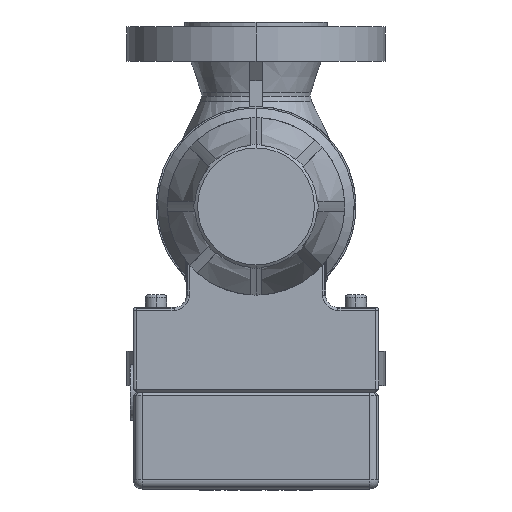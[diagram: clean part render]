
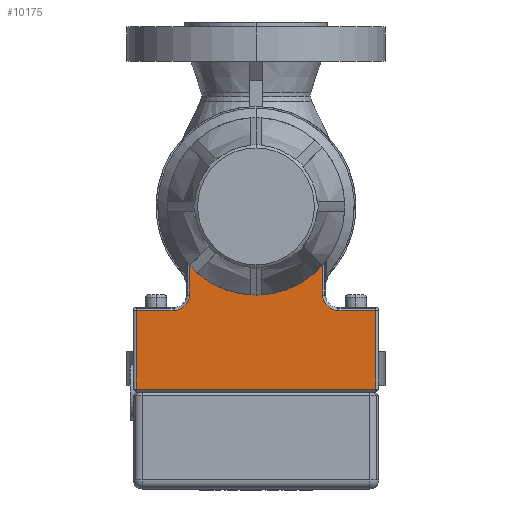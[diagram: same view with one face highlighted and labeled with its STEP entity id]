
A CAD part, front view. The second image highlights one B-rep face of the part: STEP entity #10175.
In plain terms, the highlighted free-form (B-spline) face has degree [1, 1] with [2, 2] control points.
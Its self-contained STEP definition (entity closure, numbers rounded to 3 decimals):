
#7670=CARTESIAN_POINT('',(48.75,-260.717,0.688));
#7671=VERTEX_POINT('',#7670);
#7701=CARTESIAN_POINT('',(48.75,-260.717,32.658));
#7702=VERTEX_POINT('',#7701);
#7710=CARTESIAN_POINT('',(48.75,-260.717,32.658));
#7711=DIRECTION('',(0.0,0.0,-1.0));
#7712=VECTOR('',#7711,31.97);
#7713=LINE('',#7710,#7712);
#7714=EDGE_CURVE('',#7702,#7671,#7713,.T.);
#8305=CARTESIAN_POINT('',(33.334,-260.717,32.658));
#8306=VERTEX_POINT('',#8305);
#8314=CARTESIAN_POINT('',(33.334,-260.717,32.658));
#8315=DIRECTION('',(1.0,0.0,0.0));
#8316=VECTOR('',#8315,15.416);
#8317=LINE('',#8314,#8316);
#8318=EDGE_CURVE('',#8306,#7702,#8317,.T.);
#8375=CARTESIAN_POINT('',(33.514,-260.717,75.));
#8376=VERTEX_POINT('',#8375);
#8386=CARTESIAN_POINT('',(27.894,-260.717,56.423));
#8387=VERTEX_POINT('',#8386);
#8388=CARTESIAN_POINT('',(0.,-260.717,75.));
#8389=DIRECTION('',(0.0,1.0,0.0));
#8390=DIRECTION('',(0.0,0.0,1.0));
#8391=AXIS2_PLACEMENT_3D('',#8388,#8389,#8390);
#8392=CIRCLE('',#8391,33.514);
#8393=EDGE_CURVE('',#8376,#8387,#8392,.T.);
#8419=CARTESIAN_POINT('',(-33.514,-260.717,75.));
#8420=VERTEX_POINT('',#8419);
#8429=CARTESIAN_POINT('',(-27.894,-260.717,56.423));
#8430=VERTEX_POINT('',#8429);
#8438=CARTESIAN_POINT('',(0.,-260.717,75.));
#8439=DIRECTION('',(0.0,1.0,0.0));
#8440=DIRECTION('',(0.0,0.0,1.0));
#8441=AXIS2_PLACEMENT_3D('',#8438,#8439,#8440);
#8442=CIRCLE('',#8441,33.514);
#8443=EDGE_CURVE('',#8430,#8420,#8442,.T.);
#8463=CARTESIAN_POINT('',(-48.75,-260.717,32.658));
#8464=VERTEX_POINT('',#8463);
#8472=CARTESIAN_POINT('',(-33.334,-260.717,32.658));
#8473=VERTEX_POINT('',#8472);
#8474=CARTESIAN_POINT('',(-48.75,-260.717,32.658));
#8475=DIRECTION('',(1.0,0.0,0.0));
#8476=VECTOR('',#8475,15.416);
#8477=LINE('',#8474,#8476);
#8478=EDGE_CURVE('',#8464,#8473,#8477,.T.);
#8505=CARTESIAN_POINT('',(-27.084,-260.717,38.908));
#8506=VERTEX_POINT('',#8505);
#8514=CARTESIAN_POINT('',(-27.084,-260.717,53.462));
#8515=VERTEX_POINT('',#8514);
#8516=CARTESIAN_POINT('',(-27.084,-260.717,38.908));
#8517=DIRECTION('',(0.0,0.0,1.0));
#8518=VECTOR('',#8517,14.554);
#8519=LINE('',#8516,#8518);
#8520=EDGE_CURVE('',#8506,#8515,#8519,.T.);
#9008=CARTESIAN_POINT('',(27.084,-260.717,53.462));
#9009=VERTEX_POINT('',#9008);
#9010=CARTESIAN_POINT('',(27.084,-260.717,53.462));
#9011=CARTESIAN_POINT('',(27.084,-260.717,53.591));
#9012=CARTESIAN_POINT('',(27.088,-260.717,53.721));
#9013=CARTESIAN_POINT('',(27.096,-260.717,53.85));
#9014=CARTESIAN_POINT('',(27.109,-260.717,54.057));
#9015=CARTESIAN_POINT('',(27.132,-260.717,54.264));
#9016=CARTESIAN_POINT('',(27.165,-260.717,54.469));
#9017=CARTESIAN_POINT('',(27.219,-260.717,54.797));
#9018=CARTESIAN_POINT('',(27.299,-260.717,55.118));
#9019=CARTESIAN_POINT('',(27.409,-260.717,55.432));
#9020=CARTESIAN_POINT('',(27.532,-260.717,55.78));
#9021=CARTESIAN_POINT('',(27.691,-260.717,56.117));
#9022=CARTESIAN_POINT('',(27.894,-260.717,56.423));
#9023=B_SPLINE_CURVE_WITH_KNOTS('',3,(#9010,#9011,#9012,#9013,#9014,#9015,#9016,#9017,#9018,#9019,#9020,#9021,#9022),.UNSPECIFIED.,.F.,.U.,(4,3,3,3,4),(-3.101,-2.713,-2.093,-1.101,0.),.UNSPECIFIED.);
#9024=EDGE_CURVE('',#8387,#9009,#9023,.F.);
#9147=CARTESIAN_POINT('',(-27.894,-260.717,56.423));
#9148=CARTESIAN_POINT('',(-27.794,-260.717,56.272));
#9149=CARTESIAN_POINT('',(-27.705,-260.717,56.114));
#9150=CARTESIAN_POINT('',(-27.534,-260.717,55.764));
#9151=CARTESIAN_POINT('',(-27.456,-260.717,55.57));
#9152=CARTESIAN_POINT('',(-27.348,-260.717,55.25));
#9153=CARTESIAN_POINT('',(-27.311,-260.717,55.126));
#9154=CARTESIAN_POINT('',(-27.262,-260.717,54.938));
#9155=CARTESIAN_POINT('',(-27.246,-260.717,54.876));
#9156=CARTESIAN_POINT('',(-27.209,-260.717,54.711));
#9157=CARTESIAN_POINT('',(-27.189,-260.717,54.61));
#9158=CARTESIAN_POINT('',(-27.144,-260.717,54.344));
#9159=CARTESIAN_POINT('',(-27.123,-260.717,54.179));
#9160=CARTESIAN_POINT('',(-27.092,-260.717,53.83));
#9161=CARTESIAN_POINT('',(-27.084,-260.717,53.646));
#9162=CARTESIAN_POINT('',(-27.084,-260.717,53.462));
#9163=B_SPLINE_CURVE_WITH_KNOTS('',3,(#9147,#9148,#9149,#9150,#9151,#9152,#9153,#9154,#9155,#9156,#9157,#9158,#9159,#9160,#9161,#9162),.UNSPECIFIED.,.F.,.U.,(4,2,2,2,2,2,2,4),(-3.101,-2.558,-1.938,-1.55,-1.356,-1.046,-0.55,0.),.UNSPECIFIED.);
#9164=EDGE_CURVE('',#8515,#8430,#9163,.F.);
#9208=CARTESIAN_POINT('',(-33.334,-260.717,38.908));
#9209=DIRECTION('',(0.,-1.0,0.));
#9210=DIRECTION('',(0.707,0.,-0.707));
#9211=AXIS2_PLACEMENT_3D('',#9208,#9209,#9210);
#9212=CIRCLE('',#9211,6.25);
#9213=EDGE_CURVE('',#8473,#8506,#9212,.T.);
#9259=CARTESIAN_POINT('',(0.,-260.717,75.));
#9260=DIRECTION('',(0.0,1.0,0.0));
#9261=DIRECTION('',(0.0,0.0,1.0));
#9262=AXIS2_PLACEMENT_3D('',#9259,#9260,#9261);
#9263=CIRCLE('',#9262,33.514);
#9264=EDGE_CURVE('',#8420,#8376,#9263,.T.);
#9385=CARTESIAN_POINT('',(27.084,-260.717,38.908));
#9386=VERTEX_POINT('',#9385);
#9387=CARTESIAN_POINT('',(27.084,-260.717,53.462));
#9388=DIRECTION('',(0.0,0.0,-1.0));
#9389=VECTOR('',#9388,14.554);
#9390=LINE('',#9387,#9389);
#9391=EDGE_CURVE('',#9009,#9386,#9390,.T.);
#9428=CARTESIAN_POINT('',(33.334,-260.717,38.908));
#9429=DIRECTION('',(0.,-1.0,0.));
#9430=DIRECTION('',(-0.707,0.,-0.707));
#9431=AXIS2_PLACEMENT_3D('',#9428,#9429,#9430);
#9432=CIRCLE('',#9431,6.25);
#9433=EDGE_CURVE('',#9386,#8306,#9432,.T.);
#10028=CARTESIAN_POINT('',(-48.75,-260.717,0.688));
#10029=VERTEX_POINT('',#10028);
#10037=CARTESIAN_POINT('',(-48.75,-260.717,0.688));
#10038=DIRECTION('',(0.0,0.0,1.0));
#10039=VECTOR('',#10038,31.97);
#10040=LINE('',#10037,#10039);
#10041=EDGE_CURVE('',#10029,#8464,#10040,.T.);
#10149=CARTESIAN_POINT('',(-48.75,-260.717,108.514));
#10150=CARTESIAN_POINT('',(-48.75,-260.717,0.688));
#10151=CARTESIAN_POINT('',(48.75,-260.717,108.514));
#10152=CARTESIAN_POINT('',(48.75,-260.717,0.688));
#10153=B_SPLINE_SURFACE_WITH_KNOTS('',1,1,((#10149,#10151),(#10150,#10152)),.UNSPECIFIED.,.F.,.F.,.U.,(2,2),(2,2),(0.0,107.826),(0.0,97.5),.UNSPECIFIED.);
#10154=ORIENTED_EDGE('',*,*,#10041,.F.);
#10155=CARTESIAN_POINT('',(48.75,-260.717,0.688));
#10156=DIRECTION('',(-1.0,0.0,0.0));
#10157=VECTOR('',#10156,97.5);
#10158=LINE('',#10155,#10157);
#10159=EDGE_CURVE('',#7671,#10029,#10158,.T.);
#10160=ORIENTED_EDGE('',*,*,#10159,.F.);
#10161=ORIENTED_EDGE('',*,*,#7714,.F.);
#10162=ORIENTED_EDGE('',*,*,#8318,.F.);
#10163=ORIENTED_EDGE('',*,*,#9433,.F.);
#10164=ORIENTED_EDGE('',*,*,#9391,.F.);
#10165=ORIENTED_EDGE('',*,*,#9024,.F.);
#10166=ORIENTED_EDGE('',*,*,#8393,.F.);
#10167=ORIENTED_EDGE('',*,*,#9264,.F.);
#10168=ORIENTED_EDGE('',*,*,#8443,.F.);
#10169=ORIENTED_EDGE('',*,*,#9164,.F.);
#10170=ORIENTED_EDGE('',*,*,#8520,.F.);
#10171=ORIENTED_EDGE('',*,*,#9213,.F.);
#10172=ORIENTED_EDGE('',*,*,#8478,.F.);
#10173=EDGE_LOOP('',(#10154,#10160,#10161,#10162,#10163,#10164,#10165,#10166,#10167,#10168,#10169,#10170,#10171,#10172));
#10174=FACE_OUTER_BOUND('',#10173,.T.);
#10175=ADVANCED_FACE('',(#10174),#10153,.T.);
